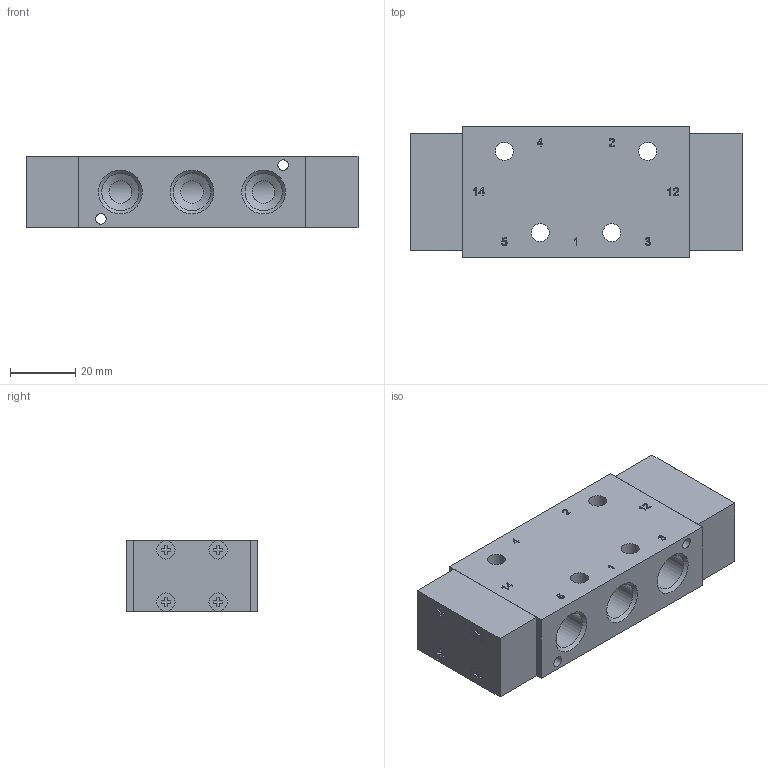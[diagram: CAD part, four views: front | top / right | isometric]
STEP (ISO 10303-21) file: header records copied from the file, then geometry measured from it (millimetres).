
FILE_DESCRIPTION(/* description */ ('Unknown','CAx-IF Rec.Pracs.---Representation and Presentation of Product Manufacturing Information (PMI)---4.0---2014-10-13','CAx-IF Rec.Pracs.---3D Tessellated Geometry---0.4---2014-09-14','2;1'),/* implementation_level */ '2;1');
FILE_NAME(/* name */ 'P 520 701 G',/* time_stamp */ '2019-09-23T12:46:09+02:00',/* author */ ('Unknown'),/* organization */ ('Unknown'),/* preprocessor_version */ 'ST-DEVELOPER v16.7',/* originating_system */ 'DEX',/* authorisation */ $);
FILE_SCHEMA (('AP242_MANAGED_MODEL_BASED_3D_ENGINEERING_MIM_LF { 1 0 10303 442 20130219 1 4 }'));
Length unit declared in the file: millimetre
Products named in the file (2): P 520 701 G
Assembly tree (1 placements, depth 2):
  P 520 701 G
    P 520 701 G
Bounding box: 102 x 40 x 22 mm (x, y, z)
Volume: 67808.4 mm3; surface area: 24789.3 mm2
Topology: 3 solids, 3 shells, 450 faces, 1196 edges, 794 vertices
Faces by surface type: plane 282, bspline 72, cylinder 66, cone 30
Full cylindrical faces by diameter (mm): 2.459 x16, 3.3 x2, 5.5 x4, 5.6 x8, 7 x5, 8.566 x4, 11.445 x10, 12 x3
Entity records: 17336 total; most frequent: CARTESIAN_POINT 3938, ORIENTED_EDGE 2124, DIRECTION 1787, EDGE_CURVE 1062, LINE 769, VECTOR 769, VERTEX_POINT 754, FACE_BOUND 618
